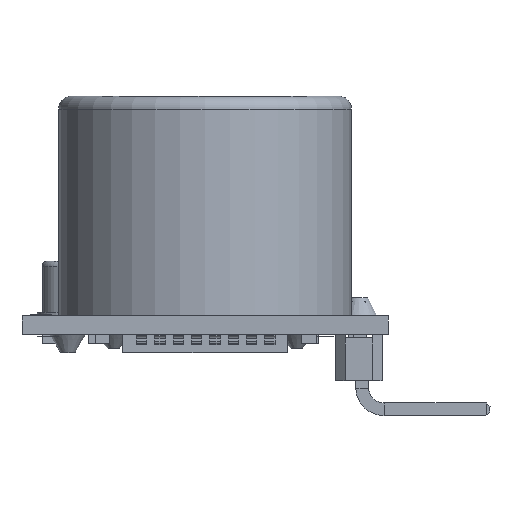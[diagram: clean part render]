
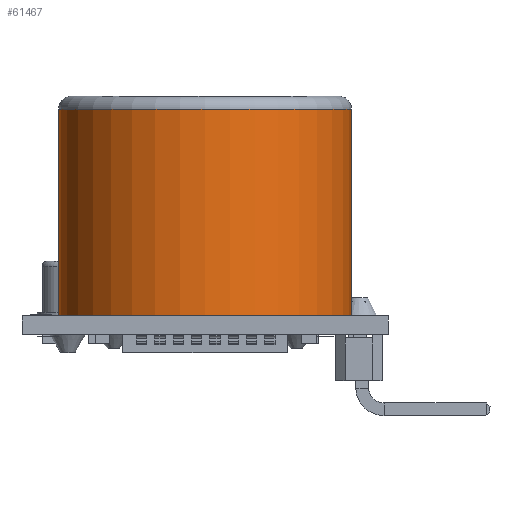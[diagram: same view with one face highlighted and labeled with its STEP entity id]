
A CAD part, left-side view. The second image highlights one B-rep face of the part: STEP entity #61467.
In plain terms, the highlighted cylindrical face has radius 8 mm (diameter 16 mm), a full revolution.
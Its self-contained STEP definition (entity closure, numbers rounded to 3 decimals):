
#1654=CYLINDRICAL_SURFACE('',#66703,8.);
#1928=CIRCLE('',#66704,8.);
#1929=CIRCLE('',#66705,8.);
#4118=FACE_OUTER_BOUND('',#7355,.T.);
#7355=EDGE_LOOP('',(#42227,#42228,#42229,#42230));
#11242=LINE('',#87217,#18672);
#18672=VECTOR('',#71412,8.);
#25996=VERTEX_POINT('',#87214);
#25997=VERTEX_POINT('',#87216);
#32514=EDGE_CURVE('',#25996,#25996,#1928,.T.);
#32515=EDGE_CURVE('',#25996,#25997,#11242,.T.);
#32516=EDGE_CURVE('',#25997,#25997,#1929,.T.);
#42227=ORIENTED_EDGE('',*,*,#32514,.T.);
#42228=ORIENTED_EDGE('',*,*,#32515,.T.);
#42229=ORIENTED_EDGE('',*,*,#32516,.F.);
#42230=ORIENTED_EDGE('',*,*,#32515,.F.);
#61467=ADVANCED_FACE('',(#4118),#1654,.T.);
#66703=AXIS2_PLACEMENT_3D('',#87213,#71408,#71409);
#66704=AXIS2_PLACEMENT_3D('',#87215,#71410,#71411);
#66705=AXIS2_PLACEMENT_3D('',#87218,#71413,#71414);
#71408=DIRECTION('center_axis',(0.,0.,-1.));
#71409=DIRECTION('ref_axis',(1.,0.,0.));
#71410=DIRECTION('center_axis',(0.,0.,1.));
#71411=DIRECTION('ref_axis',(1.,0.,0.));
#71412=DIRECTION('',(0.,0.,1.));
#71413=DIRECTION('center_axis',(0.,0.,1.));
#71414=DIRECTION('ref_axis',(1.,0.,0.));
#87213=CARTESIAN_POINT('Origin',(-13.,0.,0.));
#87214=CARTESIAN_POINT('',(-21.,0.,0.));
#87215=CARTESIAN_POINT('Origin',(-13.,0.,0.));
#87216=CARTESIAN_POINT('',(-21.,0.,11.3));
#87217=CARTESIAN_POINT('',(-21.,0.,0.));
#87218=CARTESIAN_POINT('Origin',(-13.,0.,11.3));
